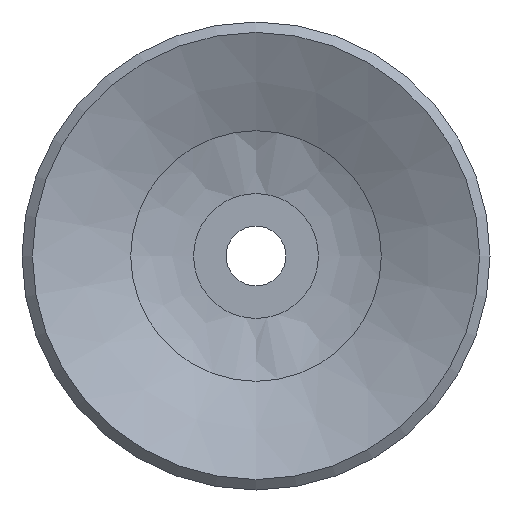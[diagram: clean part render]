
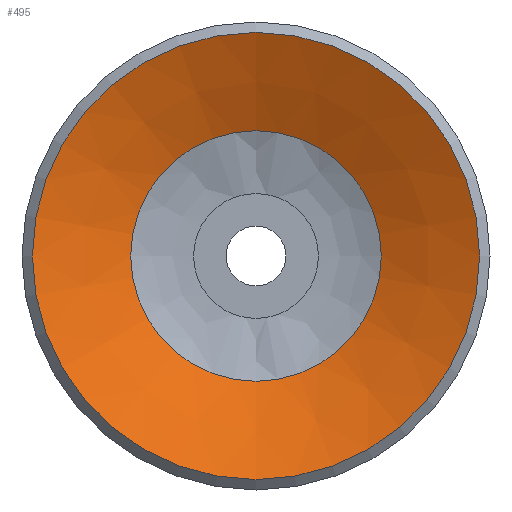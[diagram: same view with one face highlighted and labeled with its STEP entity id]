
A CAD part, front view. The second image highlights one B-rep face of the part: STEP entity #495.
In plain terms, the highlighted conical face has half-angle 65.056 degrees and reference radius 3.2 mm.
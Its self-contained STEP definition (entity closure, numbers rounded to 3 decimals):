
#495=ADVANCED_FACE('',(#741,#742),#743,.F.);
#741=FACE_BOUND('',#990,.T.);
#742=FACE_OUTER_BOUND('',#991,.T.);
#743=CONICAL_SURFACE('',#992,3.2,1.135);
#990=EDGE_LOOP('',(#1674));
#991=EDGE_LOOP('',(#1675));
#992=AXIS2_PLACEMENT_3D('',#1676,#1677,#1678);
#1674=ORIENTED_EDGE('',*,*,#1857,.T.);
#1675=ORIENTED_EDGE('',*,*,#1856,.T.);
#1676=CARTESIAN_POINT('',(0.0,7.896,0.0));
#1677=DIRECTION('',(-0.0,-1.0,0.));
#1678=DIRECTION('',(0.0,0.,-1.0));
#1856=EDGE_CURVE('',#2156,#2156,#2157,.T.);
#1857=EDGE_CURVE('',#2158,#2158,#2159,.T.);
#2156=VERTEX_POINT('',#2804);
#2157=CIRCLE('',#2805,7.5);
#2158=VERTEX_POINT('',#2806);
#2159=CIRCLE('',#2807,4.203);
#2804=CARTESIAN_POINT('',(0.0,5.896,-7.5));
#2805=AXIS2_PLACEMENT_3D('',#3073,#3074,#3075);
#2806=CARTESIAN_POINT('',(0.0,7.43,-4.203));
#2807=AXIS2_PLACEMENT_3D('',#3076,#3077,#3078);
#3073=CARTESIAN_POINT('',(0.0,5.896,0.0));
#3074=DIRECTION('',(0.0,-1.0,0.));
#3075=DIRECTION('',(0.0,0.,-1.0));
#3076=CARTESIAN_POINT('',(0.0,7.43,0.0));
#3077=DIRECTION('',(0.0,1.0,0.));
#3078=DIRECTION('',(0.0,0.,-1.0));
